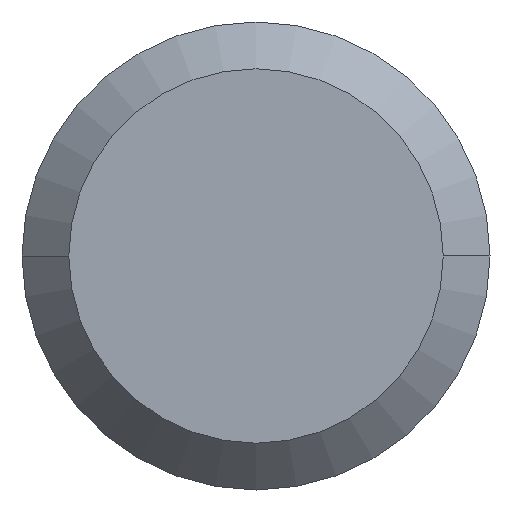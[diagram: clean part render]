
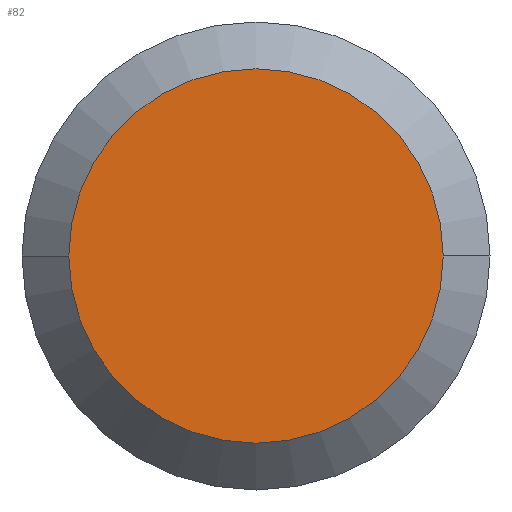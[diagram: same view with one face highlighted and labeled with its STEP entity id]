
A CAD part, front view. The second image highlights one B-rep face of the part: STEP entity #82.
In plain terms, the highlighted planar face has unit normal (0, -1, 0).
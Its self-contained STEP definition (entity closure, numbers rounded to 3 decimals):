
#82 = ADVANCED_FACE( '', ( #98 ), #99, .T. );
#98 = FACE_OUTER_BOUND( '', #114, .T. );
#99 = PLANE( '', #115 );
#114 = EDGE_LOOP( '', ( #163, #164 ) );
#115 = AXIS2_PLACEMENT_3D( '', #165, #166, #167 );
#163 = ORIENTED_EDGE( '', *, *, #171, .T. );
#164 = ORIENTED_EDGE( '', *, *, #181, .T. );
#165 = CARTESIAN_POINT( '', ( -2., -21.7, 0. ) );
#166 = DIRECTION( '', ( 0., -1., 0. ) );
#167 = DIRECTION( '', ( -1., 0., 0. ) );
#171 = EDGE_CURVE( '', #183, #187, #189, .T. );
#181 = EDGE_CURVE( '', #187, #183, #203, .T. );
#183 = VERTEX_POINT( '', #205 );
#187 = VERTEX_POINT( '', #210 );
#189 = CIRCLE( '', #213, 4. );
#203 = CIRCLE( '', #231, 4. );
#205 = CARTESIAN_POINT( '', ( -4., -21.7, 0. ) );
#210 = CARTESIAN_POINT( '', ( 4., -21.7, 0. ) );
#213 = AXIS2_PLACEMENT_3D( '', #237, #238, #239 );
#231 = AXIS2_PLACEMENT_3D( '', #259, #260, #261 );
#237 = CARTESIAN_POINT( '', ( 0., -21.7, 0. ) );
#238 = DIRECTION( '', ( 0., -1., 0. ) );
#239 = DIRECTION( '', ( -1., 0., 0. ) );
#259 = CARTESIAN_POINT( '', ( 0., -21.7, 0. ) );
#260 = DIRECTION( '', ( 0., -1., 0. ) );
#261 = DIRECTION( '', ( -1., 0., 0. ) );
